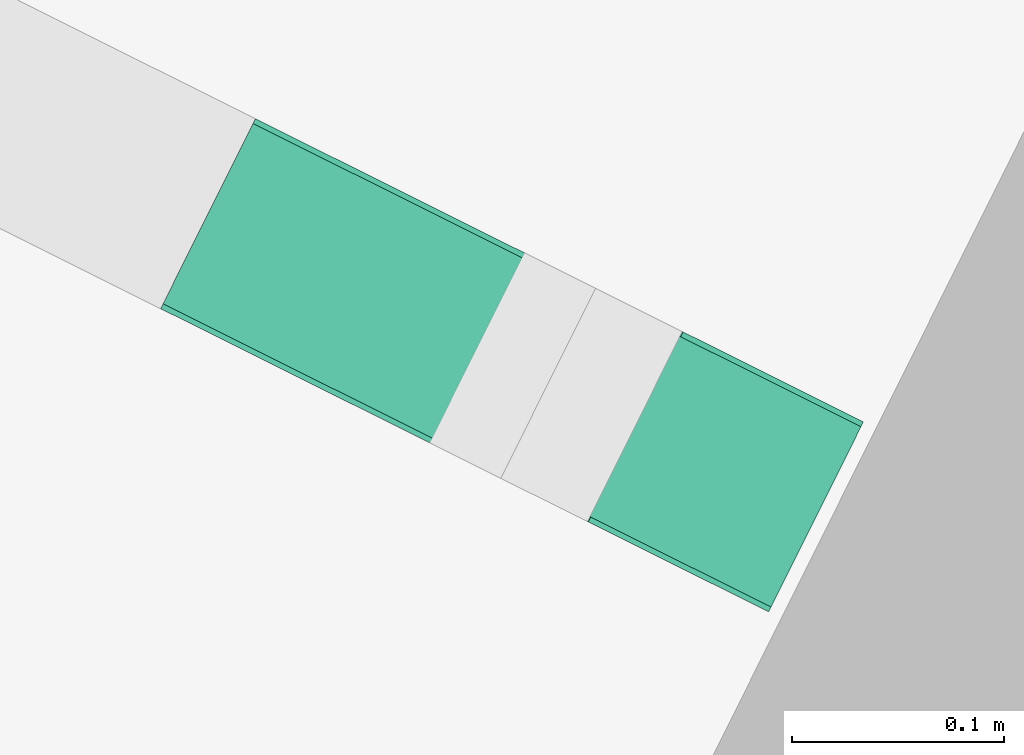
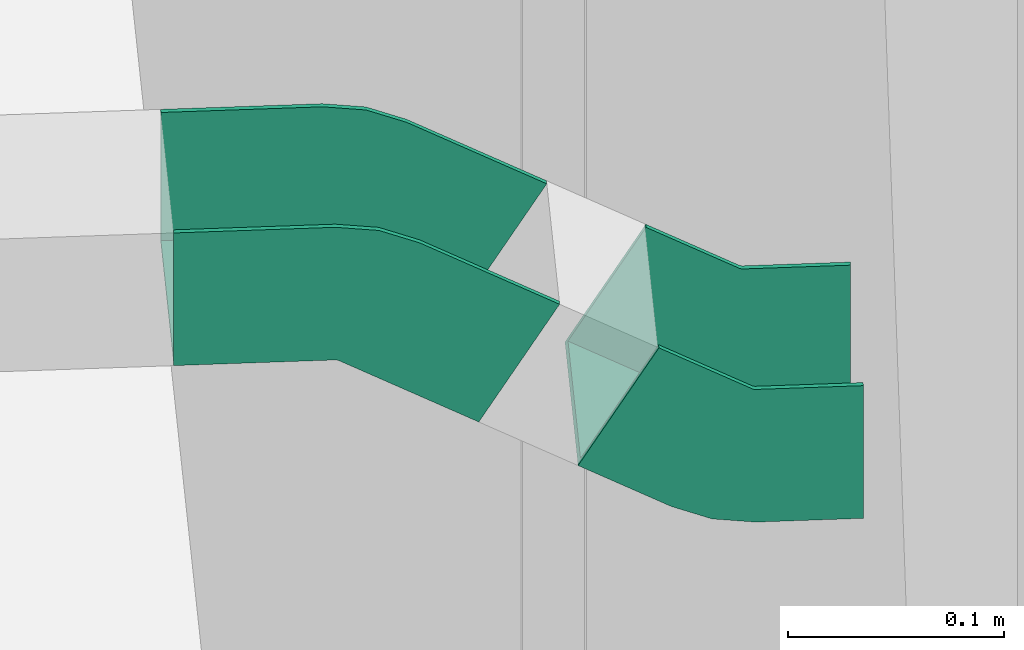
# One storey, part 88 of 91: 2 flow fittings.
"""IFC2X3 building model written with IfcOpenShell, lengths in metres."""

from ifc_helpers import new_model, entity, si_unit, converted_unit, derived_unit, direction, frame, origin, place, context, subcontext, project, spatial, faceted_brep, source, transform, mapped, type_object, type_shapes, element, save


model = new_model("IFC2X3")

# Units and contexts
model_context = context("Model", 3, precision=1e-05, world=origin(), true_north=direction((0.894925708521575, 0.446215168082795)))
context_of_model = context(None, 3, precision=1e-05, world=origin(), true_north=direction((0.894925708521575, 0.446215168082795)))
body_context = subcontext(model_context, "Body", "Model", "MODEL_VIEW")
ifc_project = project(units=[si_unit("LENGTHUNIT", "METRE"), si_unit("AREAUNIT", "SQUARE_METRE"), si_unit("VOLUMEUNIT", "CUBIC_METRE"), converted_unit("PLANEANGLEUNIT", "DEGREE", entity("IfcRatioMeasure", 0.0174532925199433), si_unit("PLANEANGLEUNIT", "RADIAN"), dimensions=[0, 0, 0, 0, 0, 0, 0]), si_unit("MASSUNIT", "GRAM", prefix="KILO"), si_unit("TIMEUNIT", "SECOND"), si_unit("FREQUENCYUNIT", "HERTZ"), si_unit("THERMODYNAMICTEMPERATUREUNIT", "DEGREE_CELSIUS"), derived_unit("THERMALTRANSMITTANCEUNIT", [(si_unit("MASSUNIT", "GRAM", prefix="KILO"), 1), (si_unit("THERMODYNAMICTEMPERATUREUNIT", "KELVIN"), -1), (si_unit("TIMEUNIT", "SECOND"), -3)]), derived_unit("VOLUMETRICFLOWRATEUNIT", [(si_unit("LENGTHUNIT", "METRE"), 3), (si_unit("TIMEUNIT", "SECOND"), -1)]), si_unit("ELECTRICCURRENTUNIT", "AMPERE"), si_unit("ELECTRICVOLTAGEUNIT", "VOLT"), si_unit("POWERUNIT", "WATT"), si_unit("FORCEUNIT", "NEWTON", prefix="KILO"), si_unit("ILLUMINANCEUNIT", "LUX"), si_unit("LUMINOUSFLUXUNIT", "LUMEN"), si_unit("LUMINOUSINTENSITYUNIT", "CANDELA"), si_unit("PRESSUREUNIT", "PASCAL")], contexts=[model_context, context_of_model])

# Site, building, storey
site_placement = place(None, frame((218.228324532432, 584.720189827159, 0.0), z_axis=(0.0, 0.0, 1.0), x_axis=(0.446215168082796, 0.894925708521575, 0.0)))
site = spatial("IfcSite", under=ifc_project, at=site_placement, Name="Default", CompositionType="ELEMENT")
building_placement = place(site_placement, origin())
building = spatial("IfcBuilding", under=site, at=building_placement, CompositionType="ELEMENT")
storey_placement = place(building_placement, origin())
storey = spatial("IfcBuildingStorey", under=building, at=storey_placement, Name="0 - Piano Terra", CompositionType="ELEMENT", Elevation=0.0)

# Flow fittings
cable_carrier_fitting_type_1 = type_object("IfcCableCarrierFittingType", Name="Standard", PredefinedType="NOTDEFINED")
shared_shape_1 = source(origin(), body_context, "Body", "Brep", [
    faceted_brep([(-0.0608988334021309, -0.0374999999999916, -0.0500000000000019), (-0.0608988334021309, -0.0374999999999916, -0.0474600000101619), (-0.0608988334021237, 0.0349600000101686, -0.0474600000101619), (-0.0608988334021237, 0.0349600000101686, 0.0474600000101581), (-0.0608988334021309, -0.0374999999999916, 0.0474600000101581), (-0.0608988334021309, -0.0374999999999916, 0.0499999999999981), (-0.0608988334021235, 0.0375000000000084, 0.0499999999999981), (-0.0608988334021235, 0.0375000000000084, -0.0500000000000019), (0.0702199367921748, -0.000173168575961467, -0.0474600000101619), (0.0339899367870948, -0.0629253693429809, -0.0474600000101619), (0.0339899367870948, -0.0629253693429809, -0.0500000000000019), (0.0714899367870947, 0.00202653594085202, -0.0500000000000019), (0.0714899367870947, 0.00202653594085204, 0.0499999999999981), (0.0339899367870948, -0.0629253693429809, 0.0499999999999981), (0.0339899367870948, -0.0629253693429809, 0.0474600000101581), (0.0702199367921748, -0.00017316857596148, 0.0474600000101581), (-0.0108988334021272, -0.0374999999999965, 0.0499999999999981), (-0.0100770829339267, -0.0376081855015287, 0.0499999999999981), (-0.00931133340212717, -0.0379253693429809, 0.0499999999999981), (0.0281886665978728, 0.027026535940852, 0.0499999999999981), (0.00933434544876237, 0.0348362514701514, 0.0499999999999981), (-0.0108988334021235, 0.0375000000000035, 0.0499999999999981), (-0.0108988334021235, 0.0375000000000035, -0.0500000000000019), (0.00933434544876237, 0.0348362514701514, -0.0500000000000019), (0.0281886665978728, 0.027026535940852, -0.0500000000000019), (-0.00931133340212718, -0.0379253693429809, -0.0500000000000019), (-0.0100770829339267, -0.0376081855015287, -0.0500000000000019), (-0.0108988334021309, -0.0374999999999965, -0.0500000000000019), (-0.0108988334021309, -0.0374999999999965, -0.0474600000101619), (-0.0108988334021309, -0.0374999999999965, 0.0474600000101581), (-0.0100770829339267, -0.0376081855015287, -0.0474600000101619), (-0.00931133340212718, -0.0379253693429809, -0.0474600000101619), (0.0269186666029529, 0.0248268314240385, -0.0474600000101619), (0.00867694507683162, 0.0323827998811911, -0.0474600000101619), (-0.0108988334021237, 0.0349600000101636, -0.0474600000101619), (-0.0108988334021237, 0.0349600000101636, 0.0474600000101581), (0.00867694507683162, 0.0323827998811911, 0.0474600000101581), (0.0269186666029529, 0.0248268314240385, 0.0474600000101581), (-0.00931133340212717, -0.0379253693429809, 0.0474600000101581), (-0.0100770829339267, -0.0376081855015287, 0.0474600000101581)], [[[0, 1, 2, 3, 4, 5, 6, 7]], [[8, 9, 10, 11, 12, 13, 14, 15]], [[5, 16, 17, 18, 13, 12, 19, 20, 21, 6]], [[21, 22, 7, 6]], [[7, 22, 23, 24, 11, 10, 25, 26, 27, 0]], [[28, 1, 0, 27]], [[16, 5, 4, 29]], [[1, 28, 30, 31, 9, 8, 32, 33, 34, 2]], [[34, 35, 3, 2]], [[3, 35, 36, 37, 15, 14, 38, 39, 29, 4]], [[23, 22, 21, 20]], [[19, 24, 23, 20]], [[27, 26, 30, 28]], [[16, 29, 39, 17]], [[30, 26, 25, 31]], [[39, 38, 18, 17]], [[35, 34, 33, 36]], [[36, 33, 32, 37]], [[11, 24, 19, 12]], [[10, 9, 31, 25]], [[14, 13, 18, 38]], [[15, 37, 32, 8]]]),
])
type_shapes(cable_carrier_fitting_type_1, [shared_shape_1])
flow_fitting_1_placement = place(storey_placement, frame((-55.2537571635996, -4.93347491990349, 3.70000000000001), z_axis=(-1.0, 0.0, 0.0), x_axis=(0.0, 1.0, 0.0)))
element("IfcFlowFitting", 1, at=flow_fitting_1_placement, inside=storey, type_object=cable_carrier_fitting_type_1, Name="M_Curvatura interna verticale canale:Standard", ObjectType="Standard", context=body_context, shape_type="MappedRepresentation", body=[
    mapped(shared_shape_1, transform((0.0, 0.0, 0.0), scale=1.0)),
])
cable_carrier_fitting_type_2 = type_object("IfcCableCarrierFittingType", Name="Standard", PredefinedType="NOTDEFINED")
shared_shape_2 = source(origin(), body_context, "Body", "Brep", [
    faceted_brep([(-0.0858988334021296, -0.0374999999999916, -0.0500000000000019), (-0.0858988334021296, -0.0374999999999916, 0.0499999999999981), (-0.0858988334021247, 0.0375000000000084, 0.0499999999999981), (-0.0858988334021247, 0.0375000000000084, 0.0474600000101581), (-0.0858988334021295, -0.0349600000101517, 0.0474600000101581), (-0.0858988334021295, -0.0349600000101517, -0.0474600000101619), (-0.0858988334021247, 0.0375000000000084, -0.0474600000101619), (-0.0858988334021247, 0.0375000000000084, -0.0500000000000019), (0.0931405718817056, -0.0104734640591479, -0.0500000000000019), (0.0931405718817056, -0.0104734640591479, -0.0474600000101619), (0.0569105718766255, -0.0732256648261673, -0.0474600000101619), (0.0569105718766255, -0.0732256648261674, 0.0474600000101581), (0.0931405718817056, -0.0104734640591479, 0.0474600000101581), (0.0931405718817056, -0.0104734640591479, 0.0499999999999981), (0.0556405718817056, -0.0754253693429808, 0.0499999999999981), (0.0556405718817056, -0.0754253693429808, -0.0500000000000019), (-0.0108988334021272, -0.0374999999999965, 0.0499999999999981), (-0.0100770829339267, -0.0376081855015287, 0.0499999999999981), (-0.00931133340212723, -0.0379253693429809, 0.0499999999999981), (0.0281886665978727, 0.027026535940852, 0.0499999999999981), (0.0187615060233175, 0.0309313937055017, 0.0499999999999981), (0.0093343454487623, 0.0348362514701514, 0.0499999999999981), (-0.000782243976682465, 0.0361681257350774, 0.0499999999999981), (-0.0108988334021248, 0.0375000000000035, 0.0499999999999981), (-0.0108988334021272, -0.0374999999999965, -0.0500000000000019), (-0.0108988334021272, -0.0374999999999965, -0.042222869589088), (-0.0108988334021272, -0.0374999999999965, -0.0344457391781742), (-0.0108988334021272, -0.0374999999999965, -0.0266686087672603), (-0.0108988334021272, -0.0374999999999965, -0.0188914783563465), (-0.0108988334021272, -0.0374999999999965, -0.00944573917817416), (-0.0108988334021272, -0.0374999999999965, 0.0), (-0.0108988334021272, -0.0374999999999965, 0.00624999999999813), (-0.0108988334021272, -0.0374999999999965, 0.0124999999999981), (-0.0108988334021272, -0.0374999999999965, 0.0187499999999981), (-0.0108988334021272, -0.0374999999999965, 0.0249999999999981), (-0.0108988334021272, -0.0374999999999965, 0.0312499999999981), (-0.0108988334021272, -0.0374999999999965, 0.0374999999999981), (-0.0108988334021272, -0.0374999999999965, 0.0422228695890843), (-0.0108988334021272, 0.0375000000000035, -0.0500000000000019), (-0.00136101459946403, 0.0362443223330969, -0.0500000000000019), (0.0093343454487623, 0.0348362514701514, -0.0500000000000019), (0.0187615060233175, 0.0309313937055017, -0.0500000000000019), (0.0281886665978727, 0.027026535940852, -0.0500000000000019), (-0.00931133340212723, -0.0379253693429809, -0.0500000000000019), (-0.0100770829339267, -0.0376081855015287, -0.0500000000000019), (-0.0108988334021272, 0.0375000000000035, -0.0474600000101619), (-0.0108988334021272, 0.0375000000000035, 0.0474600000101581), (-0.0108988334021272, -0.0349600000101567, -0.0474600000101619), (-0.00941968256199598, -0.0351547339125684, -0.0474600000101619), (-0.00804133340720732, -0.0357256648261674, -0.0474600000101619), (0.0281886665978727, 0.027026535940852, -0.0474600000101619), (0.0187615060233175, 0.0309313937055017, -0.0474600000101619), (0.0093343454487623, 0.0348362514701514, -0.0474600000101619), (-0.000782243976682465, 0.0361681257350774, -0.0474600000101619), (-0.0108988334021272, -0.0349600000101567, 0.0474600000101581), (-0.0108988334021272, -0.0349600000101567, 0.0370258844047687), (-0.0108988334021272, -0.0349600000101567, 0.0237300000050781), (-0.0108988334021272, -0.0349600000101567, 0.0118650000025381), (-0.0108988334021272, -0.0349600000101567, 0.0), (-0.0108988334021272, -0.0349600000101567, -0.0118650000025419), (-0.0108988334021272, -0.0349600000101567, -0.0237300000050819), (-0.0108988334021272, -0.0349600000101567, -0.0370258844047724), (-0.000782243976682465, 0.0361681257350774, 0.0474600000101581), (0.0093343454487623, 0.0348362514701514, 0.0474600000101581), (0.0193008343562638, 0.0307079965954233, 0.0474600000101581), (0.0281886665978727, 0.027026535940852, 0.0474600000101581), (-0.00804133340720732, -0.0357256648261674, 0.0474600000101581), (-0.00941968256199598, -0.0351547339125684, 0.0474600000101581), (-0.010077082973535, -0.0376081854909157, -0.0163379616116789), (-0.0100770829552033, -0.0376081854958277, -0.0227800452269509), (-0.00931133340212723, -0.0379253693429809, -0.0188914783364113), (-0.00931133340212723, -0.0379253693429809, -0.0111143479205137), (-0.00931133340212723, -0.0379253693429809, -0.0422228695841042), (-0.010131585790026, -0.0375940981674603, -0.0441671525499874), (-0.0100770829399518, -0.0376081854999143, 0.0398614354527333), (-0.01007708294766, -0.0376081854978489, -0.030557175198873), (-0.0100770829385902, -0.0376081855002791, -0.0383343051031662), (-0.010086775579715, -0.0376056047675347, 0.00937500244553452), (-0.00931133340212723, -0.0379253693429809, 0.0366656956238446), (-0.00931133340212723, -0.0379253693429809, 0.0422228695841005), (-0.00931133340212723, -0.0379253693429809, -0.0344457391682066), (-0.00931133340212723, -0.0379253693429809, 0.00443991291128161), (-0.00931133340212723, -0.0379253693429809, 0.0122170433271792), (-0.0101704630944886, -0.0375846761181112, 0.0339952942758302), (-0.00999089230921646, -0.037632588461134, 0.0156066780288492), (-0.00931133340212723, -0.0379253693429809, 0.021662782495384), (-0.0101364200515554, -0.0375928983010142, 0.0217859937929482), (-0.00931133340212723, -0.0379253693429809, -0.026668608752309), (-0.0100820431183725, -0.0376068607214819, 0.0281250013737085), (-0.0100187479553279, -0.0376244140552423, -0.00722578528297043), (-0.0100535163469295, -0.0376145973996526, -0.00105263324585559), (-0.00931133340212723, -0.0379253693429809, 0.0311085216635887), (-0.00931133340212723, -0.0379253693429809, -0.00333721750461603), (-0.0094196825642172, -0.0351547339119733, -0.0318088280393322), (-0.00804133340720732, -0.0357256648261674, -0.026591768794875), (-0.00804133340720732, -0.0357256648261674, -0.0370258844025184), (-0.00804133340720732, -0.0357256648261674, 0.0370258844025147), (-0.00950197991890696, -0.0351333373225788, 0.0177975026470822), (-0.00952356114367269, -0.0351279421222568, 0.00593250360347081), (-0.00804133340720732, -0.0357256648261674, 0.00757234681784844), (-0.00804133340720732, -0.0357256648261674, -0.00572353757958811), (-0.00932222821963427, -0.0351817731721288, -0.0198067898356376), (-0.00941585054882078, -0.0351557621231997, 0.030332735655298), (-0.00951251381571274, -0.0351306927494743, -0.00540005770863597), (-0.00804133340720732, -0.0357256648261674, -0.0161576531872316), (-0.00804133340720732, -0.0357256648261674, 0.020868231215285)], [[[0, 1, 2, 3, 4, 5, 6, 7]], [[8, 9, 10, 11, 12, 13, 14, 15]], [[1, 16, 17, 18, 14, 13, 19, 20, 21, 22, 23, 2]], [[16, 1, 0, 24, 25, 26, 27, 28, 29, 30, 31, 32, 33, 34, 35, 36, 37]], [[7, 38, 39, 40, 41, 42, 8, 15, 43, 44, 24, 0]], [[45, 38, 7, 6]], [[23, 46, 3, 2]], [[5, 47, 48, 49, 10, 9, 50, 51, 52, 53, 45, 6]], [[47, 5, 4, 54, 55, 56, 57, 58, 59, 60, 61]], [[3, 46, 62, 63, 64, 65, 12, 11, 66, 67, 54, 4]], [[68, 69, 70, 71]], [[43, 72, 73]], [[37, 36, 74, 17, 16]], [[27, 26, 75]], [[25, 76, 26]], [[77, 32, 31]], [[18, 17, 74, 78, 79]], [[76, 72, 80]], [[77, 81, 82]], [[36, 35, 83]], [[84, 85, 86]], [[75, 76, 80, 87, 70, 69]], [[28, 69, 68, 29]], [[85, 88, 86]], [[89, 90, 30]], [[76, 73, 72]], [[78, 74, 83]], [[24, 44, 73]], [[73, 76, 25]], [[88, 83, 35]], [[88, 85, 91]], [[88, 35, 34]], [[88, 34, 86]], [[83, 88, 91]], [[86, 34, 33]], [[32, 77, 84]], [[31, 30, 90]], [[84, 33, 32]], [[31, 90, 77]], [[84, 77, 82]], [[85, 84, 82]], [[84, 86, 33]], [[27, 75, 69, 28]], [[76, 75, 26]], [[89, 68, 71]], [[30, 29, 89]], [[71, 92, 89]], [[83, 91, 78]], [[36, 83, 74]], [[89, 92, 90]], [[68, 89, 29]], [[92, 81, 90]], [[77, 90, 81]], [[24, 73, 25]], [[73, 44, 43]], [[52, 40, 39, 38, 45, 53]], [[23, 22, 21, 63, 62, 46]], [[41, 40, 52, 51, 50, 42]], [[21, 20, 19, 65, 64, 63]], [[48, 93, 94, 95, 49]], [[67, 66, 96]], [[57, 56, 97]], [[57, 98, 58]], [[98, 99, 100]], [[55, 54, 67]], [[48, 47, 61, 60, 93]], [[94, 93, 101]], [[67, 102, 55]], [[101, 103, 104]], [[56, 55, 102]], [[101, 93, 60]], [[56, 102, 97]], [[105, 99, 97]], [[100, 104, 103]], [[98, 57, 97]], [[103, 98, 100]], [[101, 60, 59]], [[96, 105, 102]], [[97, 102, 105]], [[67, 96, 102]], [[103, 58, 98]], [[99, 98, 97]], [[103, 59, 58]], [[59, 103, 101]], [[104, 94, 101]], [[14, 18, 79, 78, 91, 85, 82, 81, 92, 71, 70, 87, 80, 72, 43, 15]], [[9, 8, 42, 50]], [[13, 12, 65, 19]], [[10, 49, 95, 94, 104, 100, 99, 105, 96, 66, 11]]]),
])
type_shapes(cable_carrier_fitting_type_2, [shared_shape_2])
flow_fitting_2_placement = place(storey_placement, frame((-55.2537571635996, -4.76026983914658, 3.8), z_axis=(-1.0, 0.0, 0.0), x_axis=(0.0, -1.0, 0.0)))
element("IfcFlowFitting", 2, at=flow_fitting_2_placement, inside=storey, type_object=cable_carrier_fitting_type_2, Name="M_Curvatura esterna verticale canale:Standard", ObjectType="Standard", context=body_context, shape_type="MappedRepresentation", body=[
    mapped(shared_shape_2, transform((0.0, 0.0, 0.0), scale=1.0)),
])

save(model, "model.ifc")
